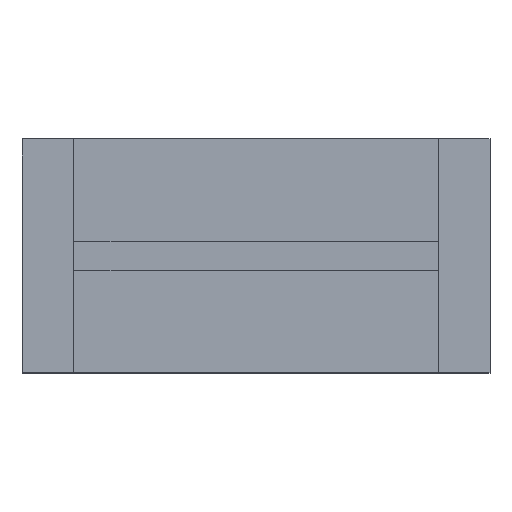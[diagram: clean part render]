
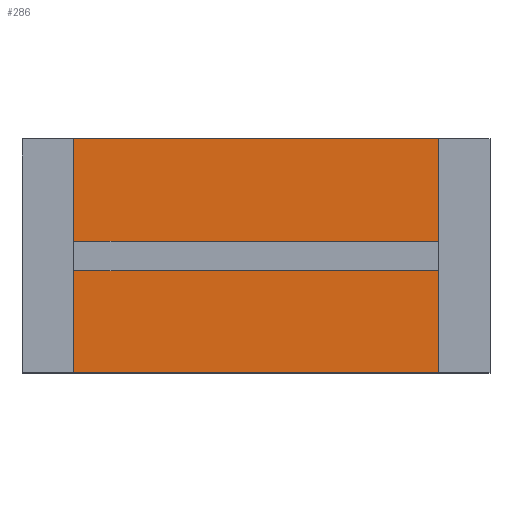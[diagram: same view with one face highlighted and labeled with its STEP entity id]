
A CAD part, top view. The second image highlights one B-rep face of the part: STEP entity #286.
In plain terms, the highlighted planar face has unit normal (0, 0, 1).
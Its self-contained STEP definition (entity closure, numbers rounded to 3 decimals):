
#286=ADVANCED_FACE('',(#520,#522),#524,.T.);
#520=FACE_BOUND('',#521,.T.);
#521=EDGE_LOOP('',(#857,#858,#859,#860));
#522=FACE_BOUND('',#523,.T.);
#523=EDGE_LOOP('',(#861,#862,#863,#864));
#524=PLANE('',#525);
#525=AXIS2_PLACEMENT_3D('',#526,#527,#528);
#526=CARTESIAN_POINT('',(0.,0.,0.45));
#527=DIRECTION('',(0.,0.,1.));
#528=DIRECTION('',(-1.,0.,0.));
#857=ORIENTED_EDGE('',*,*,#1088,.T.);
#858=ORIENTED_EDGE('',*,*,#1089,.T.);
#859=ORIENTED_EDGE('',*,*,#1090,.T.);
#860=ORIENTED_EDGE('',*,*,#1091,.T.);
#861=ORIENTED_EDGE('',*,*,#1092,.F.);
#862=ORIENTED_EDGE('',*,*,#1078,.F.);
#863=ORIENTED_EDGE('',*,*,#1093,.F.);
#864=ORIENTED_EDGE('',*,*,#1082,.F.);
#1078=EDGE_CURVE('',#1284,#1285,#1286,.T.);
#1082=EDGE_CURVE('',#1292,#1293,#1294,.T.);
#1088=EDGE_CURVE('',#1302,#1303,#1304,.T.);
#1089=EDGE_CURVE('',#1303,#1305,#1306,.T.);
#1090=EDGE_CURVE('',#1305,#1307,#1308,.T.);
#1091=EDGE_CURVE('',#1307,#1302,#1309,.T.);
#1092=EDGE_CURVE('',#1285,#1292,#1310,.T.);
#1093=EDGE_CURVE('',#1293,#1284,#1311,.T.);
#1284=VERTEX_POINT('',#1551);
#1285=VERTEX_POINT('',#1552);
#1286=LINE('',#1553,#1554);
#1292=VERTEX_POINT('',#1567);
#1293=VERTEX_POINT('',#1568);
#1294=LINE('',#1569,#1570);
#1302=VERTEX_POINT('',#1589);
#1303=VERTEX_POINT('',#1590);
#1304=LINE('',#1591,#1592);
#1305=VERTEX_POINT('',#1594);
#1306=LINE('',#1595,#1596);
#1307=VERTEX_POINT('',#1598);
#1308=LINE('',#1599,#1600);
#1309=LINE('',#1602,#1603);
#1310=LINE('',#1605,#1606);
#1311=LINE('',#1608,#1609);
#1551=CARTESIAN_POINT('',(-1.266,-0.1,0.45));
#1552=CARTESIAN_POINT('',(1.257,-0.1,0.45));
#1553=CARTESIAN_POINT('',(-1.266,-0.1,0.45));
#1554=VECTOR('',#1555,1.);
#1555=DIRECTION('',(1.,0.,0.));
#1567=CARTESIAN_POINT('',(1.257,0.1,0.45));
#1568=CARTESIAN_POINT('',(-1.266,0.1,0.45));
#1569=CARTESIAN_POINT('',(1.257,0.1,0.45));
#1570=VECTOR('',#1571,1.);
#1571=DIRECTION('',(-1.,0.,0.));
#1589=CARTESIAN_POINT('',(-1.55,0.8,0.45));
#1590=CARTESIAN_POINT('',(-1.55,-0.8,0.45));
#1591=CARTESIAN_POINT('',(-1.55,0.8,0.45));
#1592=VECTOR('',#1593,1.);
#1593=DIRECTION('',(0.,-1.,0.));
#1594=CARTESIAN_POINT('',(1.55,-0.8,0.45));
#1595=CARTESIAN_POINT('',(-1.55,-0.8,0.45));
#1596=VECTOR('',#1597,1.);
#1597=DIRECTION('',(1.,0.,0.));
#1598=CARTESIAN_POINT('',(1.55,0.8,0.45));
#1599=CARTESIAN_POINT('',(1.55,-0.8,0.45));
#1600=VECTOR('',#1601,1.);
#1601=DIRECTION('',(0.,1.,0.));
#1602=CARTESIAN_POINT('',(1.55,0.8,0.45));
#1603=VECTOR('',#1604,1.);
#1604=DIRECTION('',(-1.,0.,0.));
#1605=CARTESIAN_POINT('',(1.257,-0.1,0.45));
#1606=VECTOR('',#1607,1.);
#1607=DIRECTION('',(0.,1.,0.));
#1608=CARTESIAN_POINT('',(-1.266,0.1,0.45));
#1609=VECTOR('',#1610,1.);
#1610=DIRECTION('',(0.,-1.,0.));
